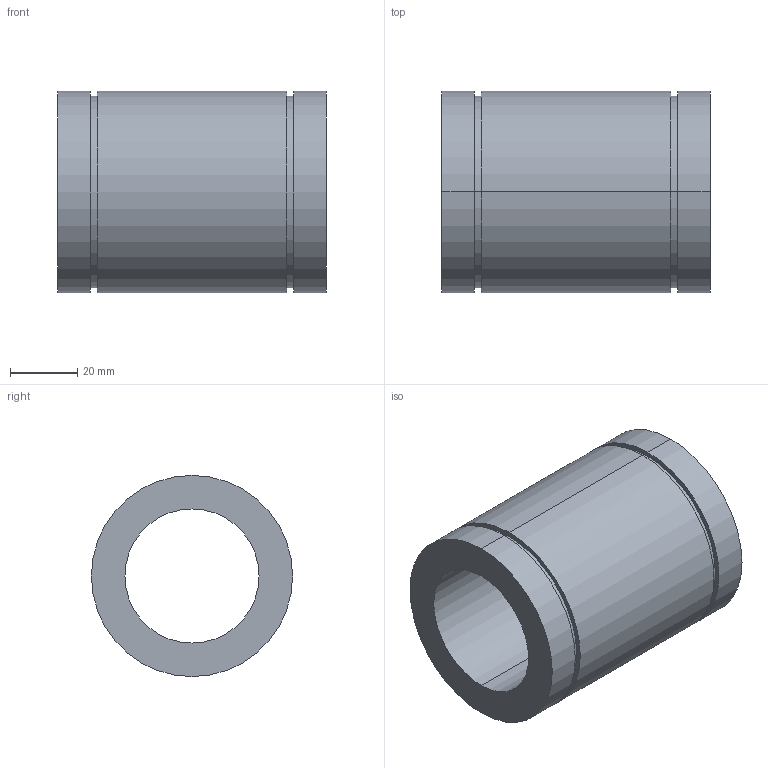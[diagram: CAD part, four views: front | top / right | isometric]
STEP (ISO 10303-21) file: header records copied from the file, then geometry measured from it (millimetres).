
FILE_DESCRIPTION (( 'STEP AP214' ), '1' );
FILE_NAME ('2.7014 Lineaarilaakeri LM40UU.STEP', '2024-06-17T07:50:26', ( '' ), ( '' ), 'SwSTEP 2.0', 'SolidWorks 2024', '' );
FILE_SCHEMA (( 'AUTOMOTIVE_DESIGN' ));
Length unit declared in the file: millimetre
Products named in the file (1): 2.7014 Lineaarilaakeri LM40UU
Bounding box: 80 x 60 x 60 mm (x, y, z)
Volume: 124505.9 mm3; surface area: 29337.4 mm2
Topology: 1 solids, 1 shells, 18 faces, 36 edges, 24 vertices
Faces by surface type: cylinder 12, plane 6
Entity records: 511 total; most frequent: DIRECTION 98, CARTESIAN_POINT 79, ORIENTED_EDGE 72, AXIS2_PLACEMENT_3D 43, EDGE_CURVE 36, EDGE_LOOP 24, VERTEX_POINT 24, CIRCLE 24
